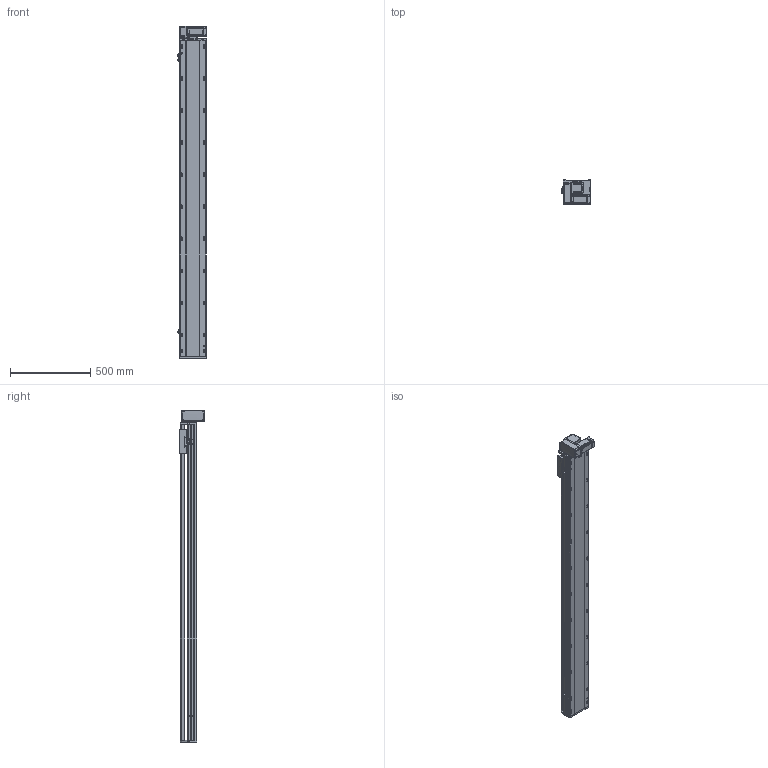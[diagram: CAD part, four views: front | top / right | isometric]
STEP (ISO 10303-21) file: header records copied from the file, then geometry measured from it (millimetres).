
FILE_DESCRIPTION (( 'STEP AP214' ), '1' );
FILE_NAME ('RTB17S-XX-1700-LM-M40-C4.STEP', '2025-12-11T06:30:35', ( '' ), ( '' ), 'SwSTEP 2.0', 'SolidWorks 2018', '' );
FILE_SCHEMA (( 'AUTOMOTIVE_DESIGN' ));
Length unit declared in the file: millimetre
Products named in the file (14): RTB17S-L-007奻裔^RTB17S-XX-XX-LM-M40-C4; RTB17S-L-001耜醱啣^RTB17S-XX-XX-LM-M40-C4; RTB17-R-011菁釱^RTB17S-XX-XX-LM-M40-C4; RTB14-L-017P^RTB17S-LM-々湍釱蚾饜-400W_RTB17S-XX-XX-LM-M40-C4; RTB17S-LM-々湍釱蚾饜-400W^RTB17S-XX-XX-LM-M40-C4; RTB14-L-005P--轴承塑胶压盖^RTB17S-LM-皮带座装配-400W_RTB17S-XX-XX-LM-M40-C4; RTB14-L-008-M20--萇儂啣^RTB17S-LM-々湍釱蚾饜-400W_RTB17S-XX-XX-LM-M40-C4; RTB14-L-018P^RTB17S-LM-々湍釱蚾饜-400W_RTB17S-XX-XX-LM-M40-C4; RTH13-BL-012覜茼え俋离^RTB17S-XX-XX-LM-M40-C4; RTB17S-L-004佪裝蹟譫蟀諉釱^RTB17S-XX-XX-LM-M40-C4; RTB17S-XX-1700-LM-M40-C4; RMP17S-L-014-T20--々湍釱^RTB17S-LM-々湍釱蚾饜-400W_RTB17S-XX-XX-LM-M40-C4; 400W侜督萇儂^RTB17S-XX-XX-LM-M40-C4; OMRON EE-SX672 传感器^RTB17S-XX-XX-LM-M40-C4
Assembly tree (16 placements, depth 3):
  RTB17S-XX-1700-LM-M40-C4
    RTB17-R-011菁釱^RTB17S-XX-XX-LM-M40-C4
    RTB17S-L-007奻裔^RTB17S-XX-XX-LM-M40-C4
    OMRON EE-SX672 传感器^RTB17S-XX-XX-LM-M40-C4  x3
    RTH13-BL-012覜茼え俋离^RTB17S-XX-XX-LM-M40-C4
    RTB17S-L-001耜醱啣^RTB17S-XX-XX-LM-M40-C4
    400W侜督萇儂^RTB17S-XX-XX-LM-M40-C4
    RTB17S-L-004佪裝蹟譫蟀諉釱^RTB17S-XX-XX-LM-M40-C4
    RTB17S-LM-々湍釱蚾饜-400W^RTB17S-XX-XX-LM-M40-C4
      RMP17S-L-014-T20--々湍釱^RTB17S-LM-々湍釱蚾饜-400W_RTB17S-XX-XX-LM-M40-C4
      RTB14-L-005P--轴承塑胶压盖^RTB17S-LM-皮带座装配-400W_RTB17S-XX-XX-LM-M40-C4
      RTB14-L-008-M20--萇儂啣^RTB17S-LM-々湍釱蚾饜-400W_RTB17S-XX-XX-LM-M40-C4
      RTB14-L-017P^RTB17S-LM-々湍釱蚾饜-400W_RTB17S-XX-XX-LM-M40-C4  x2
      RTB14-L-018P^RTB17S-LM-々湍釱蚾饜-400W_RTB17S-XX-XX-LM-M40-C4
Bounding box: 186 x 156.5 x 2072.5 mm (x, y, z)
Volume: 18080178.4 mm3; surface area: 2121468.1 mm2
Topology: 15 solids, 15 shells, 2269 faces, 6303 edges, 4113 vertices
Faces by surface type: plane 1076, cylinder 745, bspline 301, cone 139, torus 8
Entity records: 65705 total; most frequent: CARTESIAN_POINT 18508, ORIENTED_EDGE 9450, DIRECTION 8756, EDGE_CURVE 4725, VERTEX_POINT 3101, AXIS2_PLACEMENT_3D 3031, LINE 2694, VECTOR 2694
